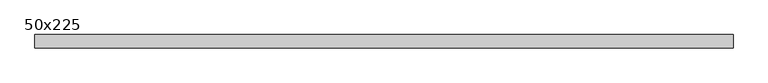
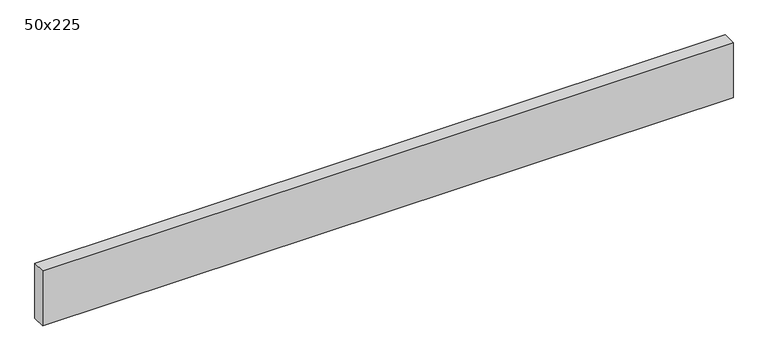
"""IFC4 building model written with IfcOpenShell, lengths in millimetres: beam geometry, Graded Timber : 50x225."""

from ifc_helpers import new_model, si_unit, frame, origin, place, context, project, spatial, polyline, outline, extrude, source, transform, mapped, element, save


def beam_50x225_36149ef2(model_context):
    return source(origin(), model_context, "Body", "SweptSolid", [
        extrude(outline(polyline([(1300.0, 25.0), (1300.0, -25.0), (-1300.0, -25.0), (-1300.0, 25.0), (1300.0, 25.0)])), frame((0.0, 0.0, -110.0), z_axis=(0.0, 0.0, 1.0), x_axis=(1.0, 0.0, 0.0)), (0.0, 0.0, 1.0), 220.0),
    ])


if __name__ == "__main__":
    model = new_model("IFC4")
    model_context = context("Model", 3, world=origin())
    ifc_project = project(units=[si_unit("LENGTHUNIT", "METRE", prefix="MILLI")], contexts=[model_context])
    site = spatial("IfcSite", under=ifc_project)
    building = spatial("IfcBuilding", under=site)
    placement = place(None, origin())
    beam_50x225_shape = beam_50x225_36149ef2(model_context)
    element("IfcBeam", 1, ObjectType="Graded Timber : 50x225", at=placement, inside=building, context=model_context, shape_type="MappedRepresentation", body=[
        mapped(beam_50x225_shape, transform((0.0, 0.0, 0.0), x_axis=(1.0, 0.0, 0.0), y_axis=(0.0, 1.0, 0.0), z_axis=(0.0, 0.0, 1.0))),
    ])
    save(model, "model.ifc")
